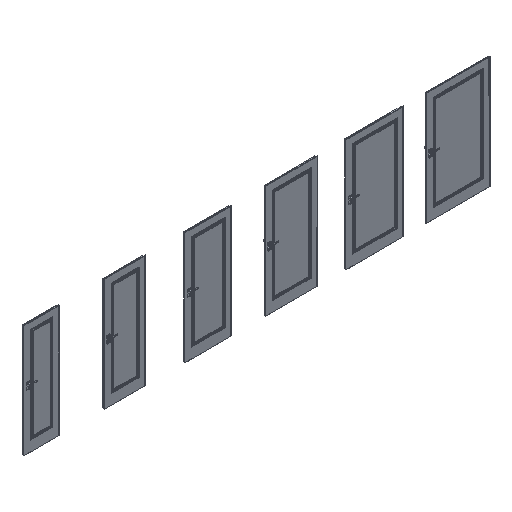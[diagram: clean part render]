
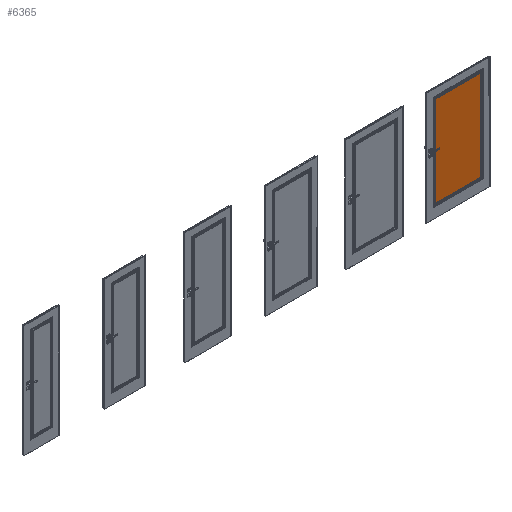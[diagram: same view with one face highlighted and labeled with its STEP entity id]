
A CAD part, isometric view. The second image highlights one B-rep face of the part: STEP entity #6365.
In plain terms, the highlighted planar face has unit normal (0, -1, 0).
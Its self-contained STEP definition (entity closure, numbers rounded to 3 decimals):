
#6365=ADVANCED_FACE('',(#9683),#7561,.F.);
#7561=PLANE('',#41198);
#9683=FACE_OUTER_BOUND('',#12311,.T.);
#12311=EDGE_LOOP('',(#22002,#22003,#22004,#22005));
#22002=ORIENTED_EDGE('',*,*,#31662,.T.);
#22003=ORIENTED_EDGE('',*,*,#31663,.T.);
#22004=ORIENTED_EDGE('',*,*,#31657,.T.);
#22005=ORIENTED_EDGE('',*,*,#31660,.T.);
#26508=VERTEX_POINT('',#70536);
#26509=VERTEX_POINT('',#70538);
#26510=VERTEX_POINT('',#70542);
#26511=VERTEX_POINT('',#70546);
#31657=EDGE_CURVE('',#26509,#26508,#35599,.T.);
#31660=EDGE_CURVE('',#26508,#26510,#35602,.T.);
#31662=EDGE_CURVE('',#26510,#26511,#35604,.T.);
#31663=EDGE_CURVE('',#26511,#26509,#35605,.T.);
#35599=LINE('',#70537,#39091);
#35602=LINE('',#70543,#39094);
#35604=LINE('',#70547,#39096);
#35605=LINE('',#70549,#39097);
#39091=VECTOR('',#48136,1.);
#39094=VECTOR('',#48141,1.);
#39096=VECTOR('',#48145,1.);
#39097=VECTOR('',#48148,1.);
#41198=AXIS2_PLACEMENT_3D('',#70551,#48151,#48152);
#48136=DIRECTION('',(0.,0.,-1.));
#48141=DIRECTION('',(1.,0.,0.));
#48145=DIRECTION('',(0.,0.,1.));
#48148=DIRECTION('',(-1.,0.,0.));
#48151=DIRECTION('',(0.,1.,0.));
#48152=DIRECTION('',(-1.,0.,0.));
#70536=CARTESIAN_POINT('',(7099.15,-39.3,236.15));
#70537=CARTESIAN_POINT('',(7099.15,-39.3,1047.5));
#70538=CARTESIAN_POINT('',(7099.15,-39.3,1858.85));
#70542=CARTESIAN_POINT('',(7900.85,-39.3,236.15));
#70543=CARTESIAN_POINT('',(7500.,-39.3,236.15));
#70546=CARTESIAN_POINT('',(7900.85,-39.3,1858.85));
#70547=CARTESIAN_POINT('',(7900.85,-39.3,1047.5));
#70549=CARTESIAN_POINT('',(7299.575,-39.3,1858.85));
#70551=CARTESIAN_POINT('',(7178.,-39.3,2030.));
